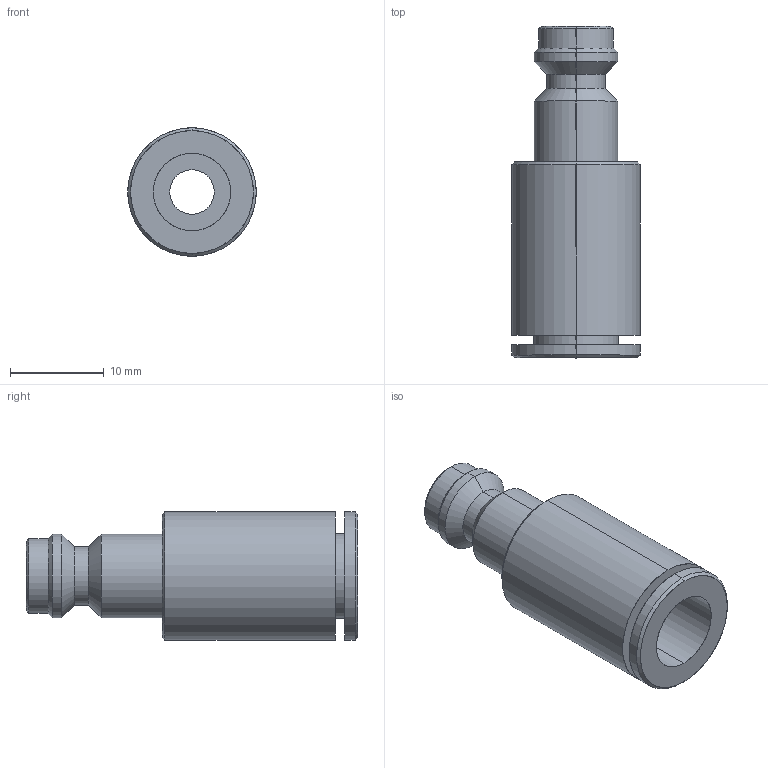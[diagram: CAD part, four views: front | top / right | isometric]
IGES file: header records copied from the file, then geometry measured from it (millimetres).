
Start section: SolidWorks IGES file using analytic representation for surfaces
Global section: file name: C:\Salvar\Planos Compartidos\Acoples Rapidos TZS\TZA-PK.IGS; native system: SolidWorks 2022; preprocessor: SolidWorks 2022; author: osval; date: 220426.125645; units: millimetre
Bounding box: 13.7 x 35.4 x 13.7 mm (x, y, z)
Surface area: 2404.9 mm2 (no closed solid volume)
Topology: 0 solids, 0 shells, 36 faces, 504 edges, 504 vertices
Faces by surface type: revolution 30, bspline 6
